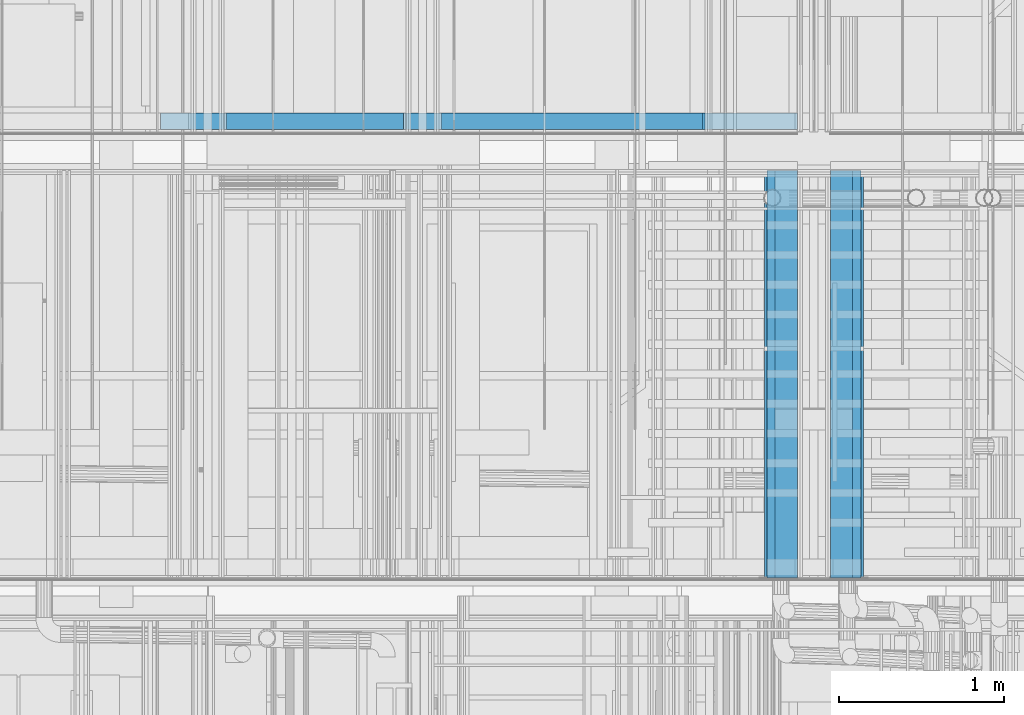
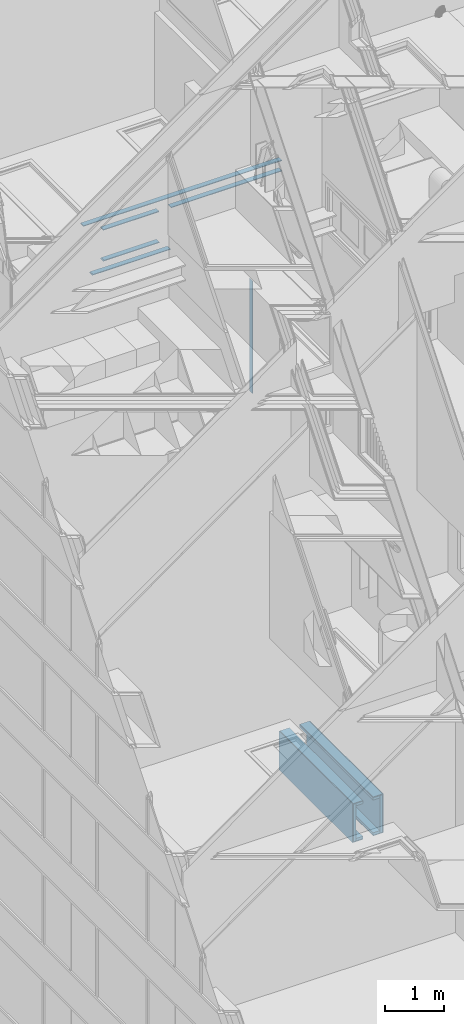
# One storey, part 150 of 583: 18 building element parts, 9 elements without a shape of their own.
"""IFC2X3 building model written with IfcOpenShell, lengths in metres."""

from ifc_helpers import new_model, entity, si_unit, converted_unit, derived_unit, money_unit, direction, frame, frame_2d, origin_with_axes, place, context, subcontext, project, spatial, polyline, rectangle, outline, extrude, material, type_object, element, aggregate, save


model = new_model("IFC2X3")

# Units and contexts
model_context = context("Model", 3, precision=1e-05, world=origin_with_axes(), true_north=direction((0.0, 1.0)))
body_context = subcontext(model_context, "Body", "Model", "MODEL_VIEW", scale=1.0)
ifc_project = project(units=[si_unit("LENGTHUNIT", "METRE"), si_unit("AREAUNIT", "SQUARE_METRE"), si_unit("VOLUMEUNIT", "CUBIC_METRE"), si_unit("ABSORBEDDOSEUNIT", "GRAY"), si_unit("AMOUNTOFSUBSTANCEUNIT", "MOLE"), si_unit("DOSEEQUIVALENTUNIT", "SIEVERT"), si_unit("ELECTRICCAPACITANCEUNIT", "FARAD"), si_unit("ELECTRICCHARGEUNIT", "COULOMB"), si_unit("ELECTRICCONDUCTANCEUNIT", "SIEMENS"), si_unit("ELECTRICCURRENTUNIT", "AMPERE"), si_unit("ELECTRICRESISTANCEUNIT", "OHM"), si_unit("ELECTRICVOLTAGEUNIT", "VOLT"), si_unit("ENERGYUNIT", "JOULE"), si_unit("FORCEUNIT", "NEWTON"), si_unit("FREQUENCYUNIT", "HERTZ"), si_unit("ILLUMINANCEUNIT", "LUX"), si_unit("INDUCTANCEUNIT", "HENRY"), si_unit("LUMINOUSFLUXUNIT", "LUMEN"), si_unit("LUMINOUSINTENSITYUNIT", "CANDELA"), si_unit("MAGNETICFLUXDENSITYUNIT", "TESLA"), si_unit("MAGNETICFLUXUNIT", "WEBER"), si_unit("MASSUNIT", "GRAM"), converted_unit("PLANEANGLEUNIT", "degree", entity("IfcReal", 0.0174532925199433), si_unit("PLANEANGLEUNIT", "RADIAN"), dimensions=[0, 0, 0, 0, 0, 0, 0]), si_unit("POWERUNIT", "WATT"), si_unit("PRESSUREUNIT", "PASCAL"), si_unit("RADIOACTIVITYUNIT", "BECQUEREL"), si_unit("SOLIDANGLEUNIT", "STERADIAN"), si_unit("THERMODYNAMICTEMPERATUREUNIT", "KELVIN"), si_unit("TIMEUNIT", "SECOND"), derived_unit("ACCELERATIONUNIT", [(si_unit("LENGTHUNIT", "METRE"), 1), (si_unit("TIMEUNIT", "SECOND"), -2)]), derived_unit("ANGULARVELOCITYUNIT", [(converted_unit("PLANEANGLEUNIT", "degree", entity("IfcReal", 0.0174532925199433), si_unit("PLANEANGLEUNIT", "RADIAN"), dimensions=[0, 0, 0, 0, 0, 0, 0]), 1), (si_unit("TIMEUNIT", "SECOND"), -1)]), derived_unit("CURVATUREUNIT", [(converted_unit("PLANEANGLEUNIT", "degree", entity("IfcReal", 0.0174532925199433), si_unit("PLANEANGLEUNIT", "RADIAN"), dimensions=[0, 0, 0, 0, 0, 0, 0]), 1), (si_unit("LENGTHUNIT", "METRE"), -1)]), derived_unit("DYNAMICVISCOSITYUNIT", [(si_unit("PRESSUREUNIT", "PASCAL"), 1), (si_unit("TIMEUNIT", "SECOND"), 1)]), derived_unit("HEATFLUXDENSITYUNIT", [(si_unit("POWERUNIT", "WATT"), 1), (si_unit("LENGTHUNIT", "METRE"), -2)]), derived_unit("HEATINGVALUEUNIT", [(si_unit("ENERGYUNIT", "JOULE"), 1), (si_unit("MASSUNIT", "GRAM"), -1)]), derived_unit("INTEGERCOUNTRATEUNIT", [(si_unit("TIMEUNIT", "SECOND"), -1)]), derived_unit("IONCONCENTRATIONUNIT", [(si_unit("MASSUNIT", "GRAM"), 1), (si_unit("VOLUMEUNIT", "CUBIC_METRE"), -1)]), derived_unit("ISOTHERMALMOISTURECAPACITYUNIT", [(si_unit("VOLUMEUNIT", "CUBIC_METRE"), 1), (si_unit("MASSUNIT", "GRAM"), -1)]), derived_unit("KINEMATICVISCOSITYUNIT", [(si_unit("AREAUNIT", "SQUARE_METRE"), 1), (si_unit("TIMEUNIT", "SECOND"), -1)]), derived_unit("LINEARFORCEUNIT", [(si_unit("FORCEUNIT", "NEWTON"), 1), (si_unit("LENGTHUNIT", "METRE"), -1)]), derived_unit("LINEARMOMENTUNIT", [(si_unit("FORCEUNIT", "NEWTON"), 1), (si_unit("LENGTHUNIT", "METRE"), -1)]), derived_unit("LINEARSTIFFNESSUNIT", [(si_unit("FORCEUNIT", "NEWTON"), 1), (si_unit("LENGTHUNIT", "METRE"), -1)]), derived_unit("LINEARVELOCITYUNIT", [(si_unit("LENGTHUNIT", "METRE"), 1), (si_unit("TIMEUNIT", "SECOND"), -1)]), derived_unit("LUMINOUSINTENSITYDISTRIBUTIONUNIT", [(si_unit("LUMINOUSINTENSITYUNIT", "CANDELA"), 1), (si_unit("LUMINOUSFLUXUNIT", "LUMEN"), -1)]), derived_unit("MASSDENSITYUNIT", [(si_unit("MASSUNIT", "GRAM"), 1), (si_unit("VOLUMEUNIT", "CUBIC_METRE"), -1)]), derived_unit("MASSFLOWRATEUNIT", [(si_unit("MASSUNIT", "GRAM"), 1), (si_unit("TIMEUNIT", "SECOND"), -1)]), derived_unit("MASSPERLENGTHUNIT", [(si_unit("MASSUNIT", "GRAM"), 1), (si_unit("LENGTHUNIT", "METRE"), -1)]), derived_unit("MODULUSOFELASTICITYUNIT", [(si_unit("FORCEUNIT", "NEWTON"), 1), (si_unit("AREAUNIT", "SQUARE_METRE"), -1)]), derived_unit("MODULUSOFLINEARSUBGRADEREACTIONUNIT", [(si_unit("FORCEUNIT", "NEWTON"), 1), (si_unit("LENGTHUNIT", "METRE"), -2)]), derived_unit("MODULUSOFROTATIONALSUBGRADEREACTIONUNIT", [(si_unit("FORCEUNIT", "NEWTON"), 1), (si_unit("LENGTHUNIT", "METRE"), 1)]), derived_unit("MODULUSOFSUBGRADEREACTIONUNIT", [(si_unit("FORCEUNIT", "NEWTON"), 1), (si_unit("VOLUMEUNIT", "CUBIC_METRE"), -1)]), derived_unit("MOISTUREDIFFUSIVITYUNIT", [(si_unit("VOLUMEUNIT", "CUBIC_METRE"), 1), (si_unit("TIMEUNIT", "SECOND"), -1)]), derived_unit("MOLECULARWEIGHTUNIT", [(si_unit("MASSUNIT", "GRAM"), 1), (si_unit("AMOUNTOFSUBSTANCEUNIT", "MOLE"), -1)]), derived_unit("PLANARFORCEUNIT", [(si_unit("FORCEUNIT", "NEWTON"), 1), (si_unit("LENGTHUNIT", "METRE"), -2)]), derived_unit("ROTATIONALFREQUENCYUNIT", [(si_unit("TIMEUNIT", "SECOND"), -1)]), derived_unit("ROTATIONALMASSUNIT", [(si_unit("MASSUNIT", "GRAM"), 1), (si_unit("LENGTHUNIT", "METRE"), 2)]), derived_unit("ROTATIONALSTIFFNESSUNIT", [(si_unit("FORCEUNIT", "NEWTON"), 1), (si_unit("LENGTHUNIT", "METRE"), 1), (converted_unit("PLANEANGLEUNIT", "degree", entity("IfcReal", 0.0174532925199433), si_unit("PLANEANGLEUNIT", "RADIAN"), dimensions=[0, 0, 0, 0, 0, 0, 0]), -1)]), derived_unit("SECTIONAREAINTEGRALUNIT", [(si_unit("LENGTHUNIT", "METRE"), 5)]), derived_unit("SECTIONMODULUSUNIT", [(si_unit("LENGTHUNIT", "METRE"), 3)]), derived_unit("SHEARMODULUSUNIT", [(si_unit("FORCEUNIT", "NEWTON"), 1), (si_unit("AREAUNIT", "SQUARE_METRE"), -1)]), derived_unit("SOUNDPOWERUNIT", [(si_unit("ENERGYUNIT", "JOULE"), 1), (si_unit("TIMEUNIT", "SECOND"), -1)]), derived_unit("SPECIFICHEATCAPACITYUNIT", [(si_unit("FORCEUNIT", "NEWTON"), 1), (si_unit("MASSUNIT", "GRAM"), -1), (si_unit("THERMODYNAMICTEMPERATUREUNIT", "KELVIN"), -1)]), derived_unit("TEMPERATUREGRADIENTUNIT", [(si_unit("THERMODYNAMICTEMPERATUREUNIT", "KELVIN"), 1), (si_unit("LENGTHUNIT", "METRE"), -1)]), derived_unit("THERMALADMITTANCEUNIT", [(si_unit("POWERUNIT", "WATT"), 1), (si_unit("AREAUNIT", "SQUARE_METRE"), -1), (si_unit("THERMODYNAMICTEMPERATUREUNIT", "KELVIN"), -1)]), derived_unit("THERMALCONDUCTANCEUNIT", [(si_unit("POWERUNIT", "WATT"), 1), (si_unit("LENGTHUNIT", "METRE"), -1), (si_unit("THERMODYNAMICTEMPERATUREUNIT", "KELVIN"), -1)]), derived_unit("THERMALEXPANSIONCOEFFICIENTUNIT", [(si_unit("THERMODYNAMICTEMPERATUREUNIT", "KELVIN"), -1)]), derived_unit("THERMALRESISTANCEUNIT", [(si_unit("AREAUNIT", "SQUARE_METRE"), 1), (si_unit("POWERUNIT", "WATT"), -1)]), derived_unit("THERMALTRANSMITTANCEUNIT", [(si_unit("POWERUNIT", "WATT"), 1), (si_unit("AREAUNIT", "SQUARE_METRE"), -1), (si_unit("THERMODYNAMICTEMPERATUREUNIT", "KELVIN"), -1)]), derived_unit("TORQUEUNIT", [(si_unit("FORCEUNIT", "NEWTON"), 1), (si_unit("LENGTHUNIT", "METRE"), 1)]), derived_unit("VAPORPERMEABILITYUNIT", [(si_unit("MASSUNIT", "GRAM"), 1), (si_unit("TIMEUNIT", "SECOND"), -1)]), derived_unit("VOLUMETRICFLOWRATEUNIT", [(si_unit("VOLUMEUNIT", "CUBIC_METRE"), 1), (si_unit("TIMEUNIT", "SECOND"), -1)]), derived_unit("WARPINGCONSTANTUNIT", [(si_unit("LENGTHUNIT", "METRE"), 6)]), derived_unit("WARPINGMOMENTUNIT", [(si_unit("FORCEUNIT", "NEWTON"), 1), (si_unit("LENGTHUNIT", "METRE"), 2)]), money_unit("GBP")], contexts=[model_context])

# Site, building, storey
site_placement = place(None, origin_with_axes())
site = spatial("IfcSite", under=ifc_project, at=site_placement, Name="Site", CompositionType="ELEMENT")
building_placement = place(site_placement, origin_with_axes())
building = spatial("IfcBuilding", under=site, at=building_placement, Name="Building01", CompositionType="ELEMENT")
storey_placement = place(building_placement, frame((0.0, 0.0, 20.78), z_axis=(0.0, 0.0, 1.0), x_axis=(1.0, 0.0, 0.0)))
storey = spatial("IfcBuildingStorey", under=building, at=storey_placement, Name="RL", CompositionType="ELEMENT", Elevation=20.78)

# Wall, building element parts
wall_type_1 = type_object("IfcWallType", Name="SHE_A-Walls_Type05c_PreWallShell_65mm", PredefinedType="NOTDEFINED")
wall_1_placement = place(storey_placement, frame((7.21494, 14.98, -18.679889), z_axis=(0.0, 1.0, 0.0), x_axis=(0.0, 0.0, 1.0)))
wall_1 = element("IfcWall", 1, at=wall_1_placement, inside=storey, type_object=wall_type_1, Name="5C", ObjectType="SHE_A-Walls_Type05c_PreWallShell_65mm")
ifc_material_1 = material(Name="A_BSUK_OpeningsClearance")
placement_1 = place(wall_1_placement, origin_with_axes())
building_element_part_1 = element("IfcBuildingElementPart", 2, at=placement_1, material=ifc_material_1, Name="1", context=body_context, shape_type="SweptSolid", body=[
    extrude(rectangle(XDim=0.77, YDim=0.05, at=frame_2d((-0.385, -0.025), x_axis=(1.0, 0.0))), origin_with_axes(), (0.0, 0.0, 1.0), 2.468),
])
ifc_material_2 = material(Name="A_BSUK_Walls_Timber")
building_element_part_2 = element("IfcBuildingElementPart", 3, at=placement_1, material=ifc_material_2, Name="2", context=body_context, shape_type="SweptSolid", body=[
    extrude(rectangle(XDim=0.8, YDim=0.015, at=frame_2d((-0.385, -0.0575), x_axis=(1.0, 0.0))), origin_with_axes(), (0.0, 0.0, 1.0), 2.468),
])
aggregate(wall_1, [building_element_part_1, building_element_part_2])

wall_2_placement = place(storey_placement, frame((7.349889, 14.98, -18.729889), z_axis=(0.0, 1.0, 0.0), x_axis=(1.0, 0.0, 0.0)))
wall_2 = element("IfcWall", 4, at=wall_2_placement, inside=storey, type_object=wall_type_1, Name="5C", ObjectType="SHE_A-Walls_Type05c_PreWallShell_65mm")
placement_2 = place(wall_2_placement, origin_with_axes())
building_element_part_3 = element("IfcBuildingElementPart", 5, at=placement_2, material=ifc_material_1, Name="1", context=body_context, shape_type="SweptSolid", body=[
    extrude(rectangle(XDim=0.134949, YDim=0.05, at=frame_2d((-0.067474, -0.025), x_axis=(1.0, 0.0))), origin_with_axes(), (0.0, 0.0, 1.0), 2.468),
])
building_element_part_4 = element("IfcBuildingElementPart", 6, at=placement_2, material=ifc_material_2, Name="2", context=body_context, shape_type="SweptSolid", body=[
    extrude(rectangle(XDim=0.184949, YDim=0.015, at=frame_2d((-0.092474, -0.0575), x_axis=(1.0, 0.0))), origin_with_axes(), (0.0, 0.0, 1.0), 2.468),
])
aggregate(wall_2, [building_element_part_3, building_element_part_4])

wall_3_placement = place(storey_placement, frame((7.349889, 14.98, -19.399889), z_axis=(0.0, 1.0, 0.0), x_axis=(1.0, 0.0, 0.0)))
wall_3 = element("IfcWall", 7, at=wall_3_placement, inside=storey, type_object=wall_type_1, Name="5C", ObjectType="SHE_A-Walls_Type05c_PreWallShell_65mm")
placement_3 = place(wall_3_placement, origin_with_axes())
building_element_part_5 = element("IfcBuildingElementPart", 8, at=placement_3, material=ifc_material_1, Name="1", context=body_context, shape_type="SweptSolid", body=[
    extrude(rectangle(XDim=0.134949, YDim=0.05, at=frame_2d((-0.067474, 0.025), x_axis=(1.0, 0.0))), origin_with_axes(), (0.0, 0.0, 1.0), 2.468),
])
building_element_part_6 = element("IfcBuildingElementPart", 9, at=placement_3, material=ifc_material_2, Name="2", context=body_context, shape_type="SweptSolid", body=[
    extrude(rectangle(XDim=0.184949, YDim=0.015, at=frame_2d((-0.092474, 0.0575), x_axis=(1.0, 0.0))), origin_with_axes(), (0.0, 0.0, 1.0), 2.468),
])
aggregate(wall_3, [building_element_part_5, building_element_part_6])

wall_4_placement = place(storey_placement, frame((7.68506, 14.98, -18.679889), z_axis=(0.0, 1.0, 0.0), x_axis=(0.0, 0.0, -1.0)))
wall_4 = element("IfcWall", 10, at=wall_4_placement, inside=storey, type_object=wall_type_1, Name="5C", ObjectType="SHE_A-Walls_Type05c_PreWallShell_65mm")
placement_4 = place(wall_4_placement, origin_with_axes())
building_element_part_7 = element("IfcBuildingElementPart", 11, at=placement_4, material=ifc_material_1, Name="1", context=body_context, shape_type="SweptSolid", body=[
    extrude(rectangle(XDim=0.77, YDim=0.05, at=frame_2d((0.385, -0.025), x_axis=(-1.0, 0.0))), origin_with_axes(), (0.0, 0.0, 1.0), 2.468),
])
building_element_part_8 = element("IfcBuildingElementPart", 12, at=placement_4, material=ifc_material_2, Name="2", context=body_context, shape_type="SweptSolid", body=[
    extrude(rectangle(XDim=0.8, YDim=0.015, at=frame_2d((0.385, -0.0575), x_axis=(-1.0, 0.0))), origin_with_axes(), (0.0, 0.0, 1.0), 2.468),
])
aggregate(wall_4, [building_element_part_7, building_element_part_8])

wall_5_placement = place(storey_placement, frame((7.550111, 14.98, -18.729889), z_axis=(0.0, 1.0, 0.0), x_axis=(1.0, 0.0, 0.0)))
wall_5 = element("IfcWall", 13, at=wall_5_placement, inside=storey, type_object=wall_type_1, Name="5C", ObjectType="SHE_A-Walls_Type05c_PreWallShell_65mm")
placement_5 = place(wall_5_placement, origin_with_axes())
building_element_part_9 = element("IfcBuildingElementPart", 14, at=placement_5, material=ifc_material_1, Name="1", context=body_context, shape_type="SweptSolid", body=[
    extrude(rectangle(XDim=0.134949, YDim=0.05, at=frame_2d((0.067474, -0.025), x_axis=(-1.0, 0.0))), origin_with_axes(), (0.0, 0.0, 1.0), 2.468),
])
building_element_part_10 = element("IfcBuildingElementPart", 15, at=placement_5, material=ifc_material_2, Name="2", context=body_context, shape_type="SweptSolid", body=[
    extrude(rectangle(XDim=0.184949, YDim=0.015, at=frame_2d((0.092474, -0.0575), x_axis=(-1.0, 0.0))), origin_with_axes(), (0.0, 0.0, 1.0), 2.468),
])
aggregate(wall_5, [building_element_part_9, building_element_part_10])

wall_6_placement = place(storey_placement, frame((7.550111, 14.98, -19.399889), z_axis=(0.0, 1.0, 0.0), x_axis=(1.0, 0.0, 0.0)))
wall_6 = element("IfcWall", 16, at=wall_6_placement, inside=storey, type_object=wall_type_1, Name="5C", ObjectType="SHE_A-Walls_Type05c_PreWallShell_65mm")
placement_6 = place(wall_6_placement, origin_with_axes())
building_element_part_11 = element("IfcBuildingElementPart", 17, at=placement_6, material=ifc_material_1, Name="1", context=body_context, shape_type="SweptSolid", body=[
    extrude(rectangle(XDim=0.134949, YDim=0.05, at=frame_2d((0.067474, 0.025), x_axis=(-1.0, 0.0))), origin_with_axes(), (0.0, 0.0, 1.0), 2.468),
])
building_element_part_12 = element("IfcBuildingElementPart", 18, at=placement_6, material=ifc_material_2, Name="2", context=body_context, shape_type="SweptSolid", body=[
    extrude(rectangle(XDim=0.184949, YDim=0.015, at=frame_2d((0.092474, 0.0575), x_axis=(-1.0, 0.0))), origin_with_axes(), (0.0, 0.0, 1.0), 2.468),
])
aggregate(wall_6, [building_element_part_11, building_element_part_12])

wall_type_2 = type_object("IfcWallType", Name="SHE_A-Walls_Type01d_Partywall_200mm_twin", PredefinedType="NOTDEFINED")
wall_7_placement = place(storey_placement, frame((5.105, 17.68, -8.155), z_axis=(0.0, 1.0, 0.0), x_axis=(-1.0, 0.0, 0.0)))
wall_7 = element("IfcWall", 19, at=wall_7_placement, inside=storey, type_object=wall_type_2, Name="1D", ObjectType="SHE_A-Walls_Type01d_Partywall_200mm_twin")
placement_7 = place(wall_7_placement, origin_with_axes())
building_element_part_13 = element("IfcBuildingElementPart", 20, at=placement_7, material=ifc_material_2, Name="2", context=body_context, shape_type="SweptSolid", body=[
    extrude(outline(polyline([(1.21, 0.14), (0.14, 0.14), (0.125, 0.125), (1.225, 0.125), (1.21, 0.14)])), frame((0.0, 0.0, 0.015), z_axis=(0.0, 0.0, 1.0), x_axis=(1.0, 0.0, 0.0)), (0.0, 0.0, 1.0), 0.1),
])
building_element_part_14 = element("IfcBuildingElementPart", 21, at=placement_7, material=ifc_material_2, Name="7", context=body_context, shape_type="SweptSolid", body=[
    extrude(outline(polyline([(1.425, -0.075), (-0.075, -0.075), (-0.09, -0.09), (1.44, -0.09), (1.425, -0.075)])), frame((0.0, 0.0, 0.015), z_axis=(0.0, 0.0, 1.0), x_axis=(1.0, 0.0, 0.0)), (0.0, 0.0, 1.0), 0.1),
])
aggregate(wall_7, [building_element_part_13, building_element_part_14])

wall_8_placement = place(storey_placement, frame((7.349939, 17.68, -7.305), z_axis=(0.0, 1.0, 0.0), x_axis=(-1.0, 0.0, 0.0)))
wall_8 = element("IfcWall", 22, at=wall_8_placement, inside=storey, type_object=wall_type_2, Name="1D", ObjectType="SHE_A-Walls_Type01d_Partywall_200mm_twin")
placement_8 = place(wall_8_placement, origin_with_axes())
building_element_part_15 = element("IfcBuildingElementPart", 23, at=placement_8, material=ifc_material_2, Name="2", context=body_context, shape_type="SweptSolid", body=[
    extrude(rectangle(XDim=3.855, YDim=0.015, at=frame_2d((1.9275, 0.1325), x_axis=(-1.0, 0.0))), frame((0.0, 0.0, 0.015), z_axis=(0.0, 0.0, 1.0), x_axis=(1.0, 0.0, 0.0)), (0.0, 0.0, 1.0), 0.1),
])
building_element_part_16 = element("IfcBuildingElementPart", 24, at=placement_8, material=ifc_material_2, Name="7", context=body_context, shape_type="SweptSolid", body=[
    extrude(rectangle(XDim=2.154939, YDim=0.015, at=frame_2d((1.07747, -0.0825), x_axis=(-1.0, 0.0))), frame((0.0, 0.0, 0.015), z_axis=(0.0, 0.0, 1.0), x_axis=(1.0, 0.0, 0.0)), (0.0, 0.0, 1.0), 0.1),
])
building_element_part_17 = element("IfcBuildingElementPart", 25, at=placement_8, material=ifc_material_2, Name="11", context=body_context, shape_type="SweptSolid", body=[
    extrude(rectangle(XDim=1.085, YDim=0.015, at=frame_2d((2.927439, -0.0825), x_axis=(-1.0, 0.0))), frame((0.0, 0.0, 0.015), z_axis=(0.0, 0.0, 1.0), x_axis=(1.0, 0.0, 0.0)), (0.0, 0.0, 1.0), 0.1),
])
aggregate(wall_8, [building_element_part_15, building_element_part_16, building_element_part_17])

# Wall, building element part
wall_type_3 = type_object("IfcWallType", Name="SHE_A-Walls_Type02c_LiftShaftWall_193mm", PredefinedType="NOTDEFINED")
wall_9_placement = place(storey_placement, frame((6.909769, 17.68, -9.552), z_axis=(0.0, 1.0, 0.0), x_axis=(0.0, 0.0, -1.0)))
wall_9 = element("IfcWall", 26, at=wall_9_placement, inside=storey, type_object=wall_type_3, Name="2C", ObjectType="SHE_A-Walls_Type02c_LiftShaftWall_193mm")
building_element_part_18_placement = place(wall_9_placement, origin_with_axes())
building_element_part_18 = element("IfcBuildingElementPart", 27, at=building_element_part_18_placement, material=ifc_material_2, Name="3", context=body_context, shape_type="SweptSolid", body=[
    extrude(outline(polyline([(2.206, 0.135), (-0.11, 0.135), (-0.095, 0.12), (2.191, 0.12), (2.206, 0.135)])), frame((0.0, 0.0, 0.015), z_axis=(0.0, 0.0, 1.0), x_axis=(1.0, 0.0, 0.0)), (0.0, 0.0, 1.0), 0.1),
])
aggregate(wall_9, [building_element_part_18])

save(model, "model.ifc")
